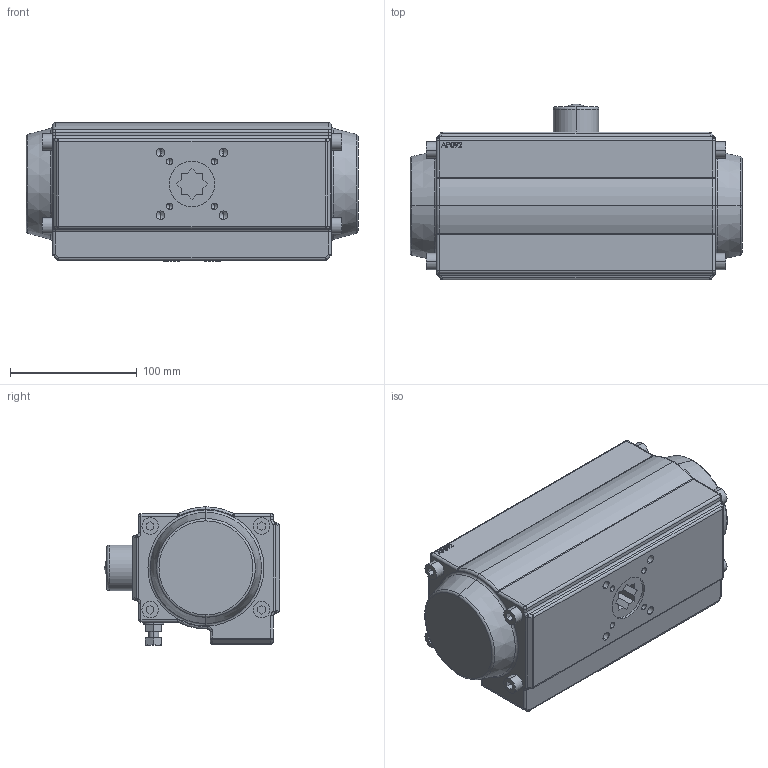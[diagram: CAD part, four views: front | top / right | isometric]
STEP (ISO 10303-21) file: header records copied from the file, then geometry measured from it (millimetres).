
FILE_DESCRIPTION (( 'STEP AP203' ), '1' );
FILE_NAME ('AP092.STEP', '2020-04-08T11:53:45', ( '' ), ( '' ), 'SwSTEP 2.0', 'SolidWorks 2017', '' );
FILE_SCHEMA (( 'CONFIG_CONTROL_DESIGN' ));
Length unit declared in the file: millimetre
Products named in the file (1): AP092
Bounding box: 262 x 138.5 x 109.28 mm (x, y, z)
Volume: 2630172.7 mm3; surface area: 135029.2 mm2
Topology: 1 solids, 1 shells, 508 faces, 1201 edges, 707 vertices
Faces by surface type: plane 202, cylinder 125, cone 68, bspline 47, torus 34, sphere 32
Entity records: 16744 total; most frequent: CARTESIAN_POINT 5454, ORIENTED_EDGE 2302, DIRECTION 2295, EDGE_CURVE 1151, AXIS2_PLACEMENT_3D 824, VERTEX_POINT 707, LINE 647, VECTOR 647
